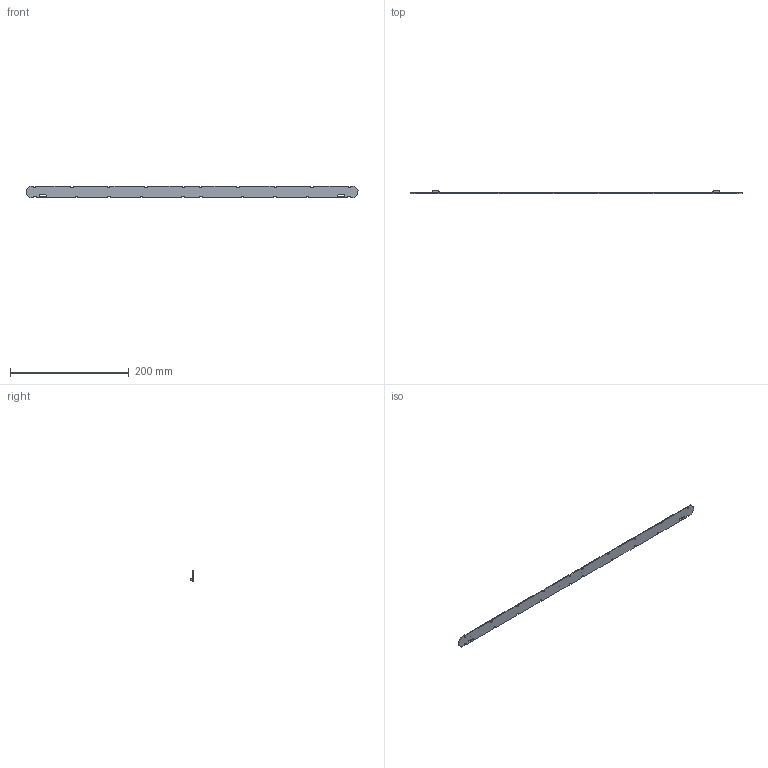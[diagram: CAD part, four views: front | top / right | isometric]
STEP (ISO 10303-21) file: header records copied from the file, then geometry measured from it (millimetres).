
FILE_DESCRIPTION (( 'STEP AP214' ), '1' );
FILE_NAME ('4162893swm000.step', '2020-02-19T14:31:03', ( 'OSRAM' ), ( 'OSRAM' ), 'SwSTEP 2.0', 'SolidWorks 2017', '' );
FILE_SCHEMA (( 'AUTOMOTIVE_DESIGN' ));
Length unit declared in the file: millimetre
Products named in the file (4): 4162896swm000; 4162893swm000; 3792700swm000; 3755688swm000
Assembly tree (4 placements, depth 2):
  4162893swm000
    4162896swm000
    3755688swm000
    3792700swm000  x2
Bounding box: 559.5 x 5.55 x 20 mm (x, y, z)
Volume: 18236.9 mm3; surface area: 26893.1 mm2
Topology: 100 solids, 100 shells, 1976 faces, 4964 edges, 3292 vertices
Faces by surface type: plane 1814, cylinder 102, bspline 56, cone 4
Entity records: 76049 total; most frequent: CARTESIAN_POINT 10666, ORIENTED_EDGE 9348, DIRECTION 8363, EDGE_CURVE 4674, LINE 4459, VECTOR 4459, VERTEX_POINT 3108, EDGE_LOOP 1972
